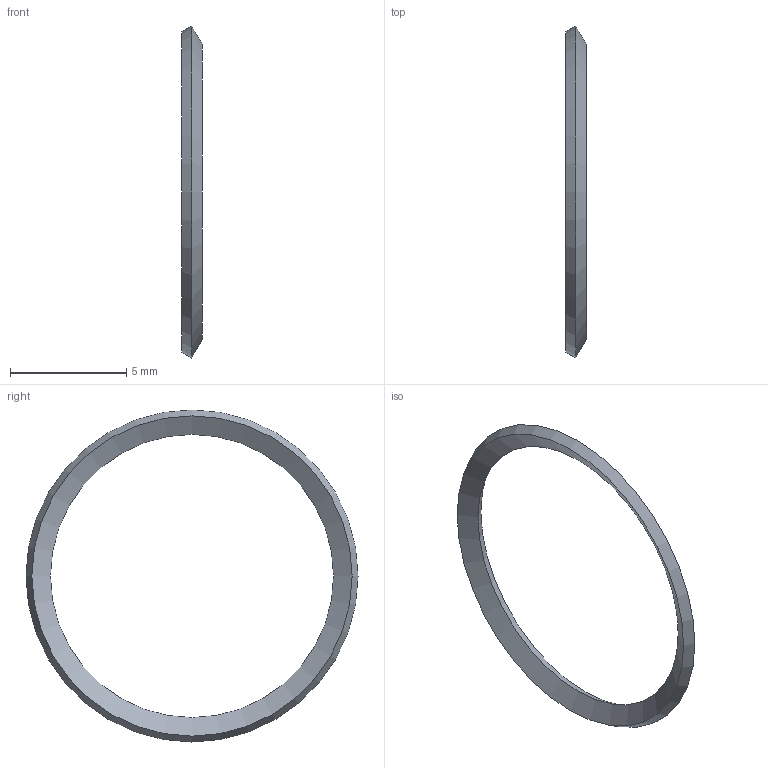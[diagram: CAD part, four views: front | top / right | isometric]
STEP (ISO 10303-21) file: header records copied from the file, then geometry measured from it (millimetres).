
FILE_DESCRIPTION(/* description */ (''),/* implementation_level */ '2;1');
FILE_NAME(/* name */ 'C:\Temp\WebData\TM\TMline\10036508.stp',/* time_stamp */ '2025-08-05T09:35:05+02:00',/* author */ (''),/* organization */ (''),/* preprocessor_version */ 'ST-DEVELOPER v18.1',/* originating_system */ 'Autodesk Inventor 2020',/* authorisation */ '');
FILE_SCHEMA (('AUTOMOTIVE_DESIGN { 1 0 10303 214 3 1 1 }'));
Length unit declared in the file: millimetre
Products named in the file (1): 10036508
Bounding box: 0.9 x 14.3 x 14.3 mm (x, y, z)
Volume: 19.2 mm3; surface area: 118.6 mm2
Topology: 1 solids, 1 shells, 4 faces, 12 edges, 8 vertices
Faces by surface type: cone 4
Entity records: 202 total; most frequent: DIRECTION 30, CARTESIAN_POINT 25, ORIENTED_EDGE 24, AXIS2_PLACEMENT_3D 13, EDGE_CURVE 12, CIRCLE 8, VERTEX_POINT 8, STYLED_ITEM 5
